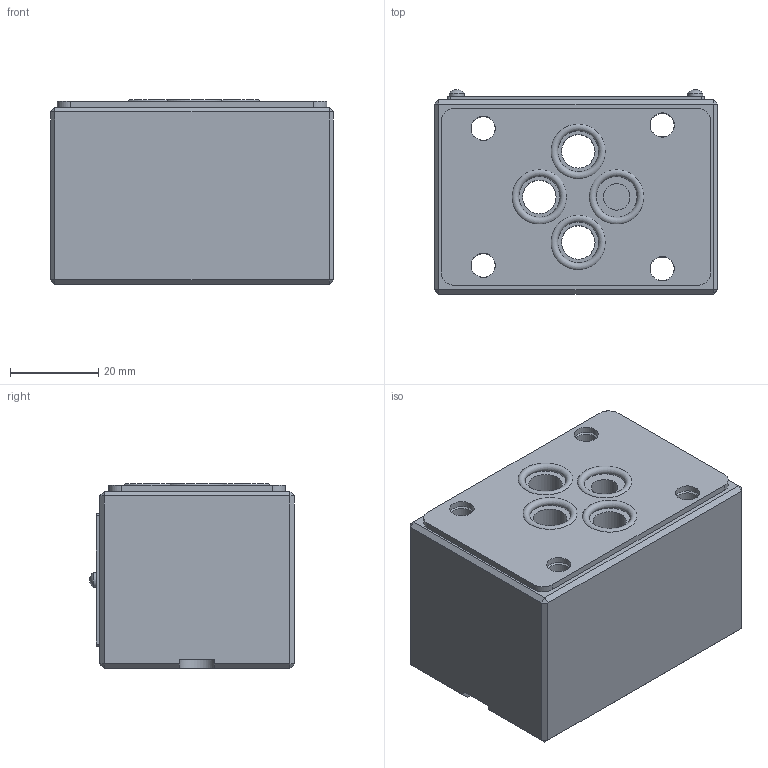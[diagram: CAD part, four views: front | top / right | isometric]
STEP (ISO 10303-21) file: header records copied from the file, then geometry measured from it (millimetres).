
FILE_DESCRIPTION(/* description */ (''),/* implementation_level */ '2;1');
FILE_NAME(/* name */ 'Z1S6B叠加式单向阀.prt.stp',/* time_stamp */ '2022-03-30T19:24:04+08:00',/* author */ (''),/* organization */ (''),/* preprocessor_version */ 'ST-DEVELOPER v16.7',/* originating_system */ 'SIEMENS PLM Software NX 12.0',/* authorisation */ '');
FILE_SCHEMA (('AUTOMOTIVE_DESIGN { 1 0 10303 214 3 1 1 1 }'));
Length unit declared in the file: millimetre
Products named in the file (1): Z1S6B叠加式单向阀
Bounding box: 64 x 46.3 x 41.78 mm (x, y, z)
Volume: 108070.6 mm3; surface area: 29112 mm2
Topology: 10 solids, 10 shells, 1052 faces, 2966 edges, 1964 vertices
Faces by surface type: plane 919, extrusion 77, cylinder 39, cone 11, torus 4, sphere 2
Full cylindrical faces by diameter (mm): 1.8 x4, 2 x2, 2.5 x2, 3.4 x2, 5.4 x4, 5.5 x4, 6 x1, 7.6 x3, 10 x1, 12 x1, 12.2 x4, 14 x2
Entity records: 40140 total; most frequent: CARTESIAN_POINT 6615, ORIENTED_EDGE 5818, DIRECTION 4872, EDGE_CURVE 2909, VECTOR 2744, LINE 2667, VERTEX_POINT 1960, EDGE_LOOP 1163
